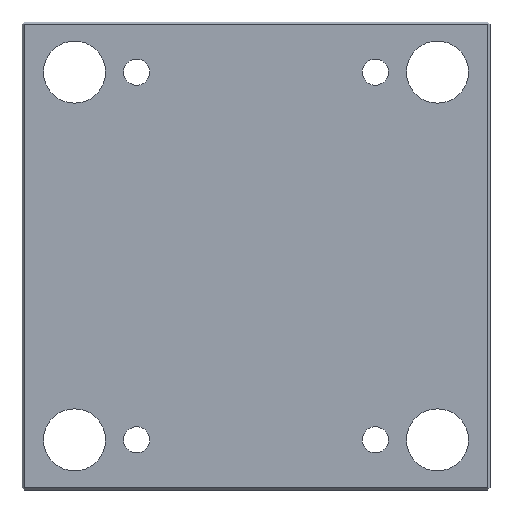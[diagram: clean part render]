
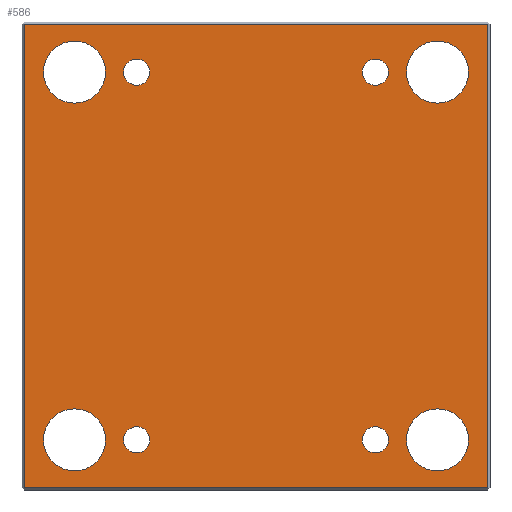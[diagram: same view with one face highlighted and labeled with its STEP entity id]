
A CAD part, front view. The second image highlights one B-rep face of the part: STEP entity #586.
In plain terms, the highlighted planar face has unit normal (0, -1, 0).
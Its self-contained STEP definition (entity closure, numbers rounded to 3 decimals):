
#40=CIRCLE('',#642,5.5);
#41=CIRCLE('',#643,5.5);
#42=CIRCLE('',#644,5.5);
#43=CIRCLE('',#645,5.5);
#44=CIRCLE('',#646,13.);
#45=CIRCLE('',#647,13.);
#46=CIRCLE('',#648,13.);
#47=CIRCLE('',#649,13.);
#108=ORIENTED_EDGE('',*,*,#244,.F.);
#109=ORIENTED_EDGE('',*,*,#245,.F.);
#110=ORIENTED_EDGE('',*,*,#246,.F.);
#111=ORIENTED_EDGE('',*,*,#247,.F.);
#112=ORIENTED_EDGE('',*,*,#248,.F.);
#113=ORIENTED_EDGE('',*,*,#249,.F.);
#114=ORIENTED_EDGE('',*,*,#250,.F.);
#115=ORIENTED_EDGE('',*,*,#251,.F.);
#116=ORIENTED_EDGE('',*,*,#252,.F.);
#117=ORIENTED_EDGE('',*,*,#238,.F.);
#118=ORIENTED_EDGE('',*,*,#253,.T.);
#119=ORIENTED_EDGE('',*,*,#240,.T.);
#238=EDGE_CURVE('',#303,#300,#358,.T.);
#240=EDGE_CURVE('',#305,#304,#360,.T.);
#244=EDGE_CURVE('',#308,#308,#40,.T.);
#245=EDGE_CURVE('',#309,#309,#41,.T.);
#246=EDGE_CURVE('',#310,#310,#42,.T.);
#247=EDGE_CURVE('',#311,#311,#43,.T.);
#248=EDGE_CURVE('',#312,#312,#44,.T.);
#249=EDGE_CURVE('',#313,#313,#45,.T.);
#250=EDGE_CURVE('',#314,#314,#46,.T.);
#251=EDGE_CURVE('',#315,#315,#47,.T.);
#252=EDGE_CURVE('',#300,#304,#364,.T.);
#253=EDGE_CURVE('',#303,#305,#365,.T.);
#300=VERTEX_POINT('',#920);
#303=VERTEX_POINT('',#926);
#304=VERTEX_POINT('',#930);
#305=VERTEX_POINT('',#932);
#308=VERTEX_POINT('',#940);
#309=VERTEX_POINT('',#942);
#310=VERTEX_POINT('',#944);
#311=VERTEX_POINT('',#946);
#312=VERTEX_POINT('',#948);
#313=VERTEX_POINT('',#950);
#314=VERTEX_POINT('',#952);
#315=VERTEX_POINT('',#954);
#358=LINE('',#927,#406);
#360=LINE('',#931,#408);
#364=LINE('',#955,#412);
#365=LINE('',#956,#413);
#406=VECTOR('',#745,1000.);
#408=VECTOR('',#749,1000.);
#412=VECTOR('',#771,1000.);
#413=VECTOR('',#772,1000.);
#440=EDGE_LOOP('',(#108));
#441=EDGE_LOOP('',(#109));
#442=EDGE_LOOP('',(#110));
#443=EDGE_LOOP('',(#111));
#444=EDGE_LOOP('',(#112));
#445=EDGE_LOOP('',(#113));
#446=EDGE_LOOP('',(#114));
#447=EDGE_LOOP('',(#115));
#448=EDGE_LOOP('',(#116,#117,#118,#119));
#506=FACE_BOUND('',#440,.T.);
#507=FACE_BOUND('',#441,.T.);
#508=FACE_BOUND('',#442,.T.);
#509=FACE_BOUND('',#443,.T.);
#510=FACE_BOUND('',#444,.T.);
#511=FACE_BOUND('',#445,.T.);
#512=FACE_BOUND('',#446,.T.);
#513=FACE_BOUND('',#447,.T.);
#514=FACE_BOUND('',#448,.T.);
#564=PLANE('',#641);
#586=ADVANCED_FACE('',(#506,#507,#508,#509,#510,#511,#512,#513,#514),#564,
 .F.);
#641=AXIS2_PLACEMENT_3D('',#938,#753,#754);
#642=AXIS2_PLACEMENT_3D('',#939,#755,#756);
#643=AXIS2_PLACEMENT_3D('',#941,#757,#758);
#644=AXIS2_PLACEMENT_3D('',#943,#759,#760);
#645=AXIS2_PLACEMENT_3D('',#945,#761,#762);
#646=AXIS2_PLACEMENT_3D('',#947,#763,#764);
#647=AXIS2_PLACEMENT_3D('',#949,#765,#766);
#648=AXIS2_PLACEMENT_3D('',#951,#767,#768);
#649=AXIS2_PLACEMENT_3D('',#953,#769,#770);
#745=DIRECTION('',(0.,0.,-1.));
#749=DIRECTION('',(0.,0.,-1.));
#753=DIRECTION('',(0.,1.,0.));
#754=DIRECTION('',(0.,0.,1.));
#755=DIRECTION('',(0.,-1.,0.));
#756=DIRECTION('',(0.,0.,-1.));
#757=DIRECTION('',(0.,-1.,0.));
#758=DIRECTION('',(0.,0.,-1.));
#759=DIRECTION('',(0.,-1.,0.));
#760=DIRECTION('',(0.,0.,-1.));
#761=DIRECTION('',(0.,-1.,0.));
#762=DIRECTION('',(0.,0.,-1.));
#763=DIRECTION('',(0.,-1.,0.));
#764=DIRECTION('',(0.,0.,-1.));
#765=DIRECTION('',(0.,-1.,0.));
#766=DIRECTION('',(0.,0.,-1.));
#767=DIRECTION('',(0.,-1.,0.));
#768=DIRECTION('',(0.,0.,-1.));
#769=DIRECTION('',(0.,-1.,0.));
#770=DIRECTION('',(0.,0.,-1.));
#771=DIRECTION('',(-1.,0.,0.));
#772=DIRECTION('',(-1.,0.,0.));
#920=CARTESIAN_POINT('',(97.,0.,-97.));
#926=CARTESIAN_POINT('',(97.,0.,97.));
#927=CARTESIAN_POINT('',(97.,0.,98.));
#930=CARTESIAN_POINT('',(-97.,0.,-97.));
#931=CARTESIAN_POINT('',(-97.,0.,98.));
#932=CARTESIAN_POINT('',(-97.,0.,97.));
#938=CARTESIAN_POINT('',(-97.,0.,98.));
#939=CARTESIAN_POINT('',(50.,0.,77.));
#940=CARTESIAN_POINT('',(50.,0.,71.5));
#941=CARTESIAN_POINT('',(-50.,0.,77.));
#942=CARTESIAN_POINT('',(-50.,0.,71.5));
#943=CARTESIAN_POINT('',(50.,0.,-77.));
#944=CARTESIAN_POINT('',(50.,0.,-82.5));
#945=CARTESIAN_POINT('',(-50.,0.,-77.));
#946=CARTESIAN_POINT('',(-50.,0.,-82.5));
#947=CARTESIAN_POINT('',(76.,0.,77.));
#948=CARTESIAN_POINT('',(76.,0.,64.));
#949=CARTESIAN_POINT('',(-76.,0.,77.));
#950=CARTESIAN_POINT('',(-76.,0.,64.));
#951=CARTESIAN_POINT('',(76.,0.,-77.));
#952=CARTESIAN_POINT('',(76.,0.,-90.));
#953=CARTESIAN_POINT('',(-76.,0.,-77.));
#954=CARTESIAN_POINT('',(-76.,0.,-90.));
#955=CARTESIAN_POINT('',(98.,0.,-97.));
#956=CARTESIAN_POINT('',(98.,0.,97.));
